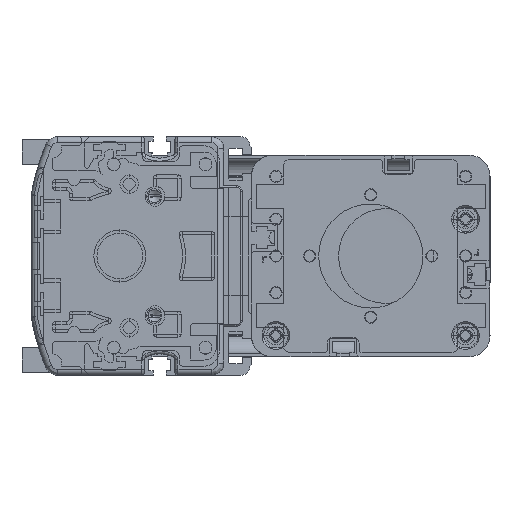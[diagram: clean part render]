
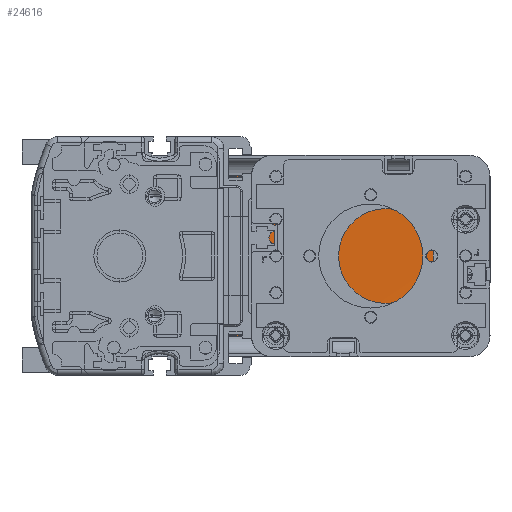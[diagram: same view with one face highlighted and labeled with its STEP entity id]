
A CAD part, left-side view. The second image highlights one B-rep face of the part: STEP entity #24616.
In plain terms, the highlighted spherical face has radius 998.8 mm.
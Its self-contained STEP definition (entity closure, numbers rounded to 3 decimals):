
#6895=CARTESIAN_POINT('',(129.,-67.569,0.));
#6896=DIRECTION('',(0.,1.,0.));
#6897=DIRECTION('',(1.,0.,0.026));
#6898=AXIS2_PLACEMENT_3D('',#6895,#6896,#6897);
#6918=CARTESIAN_POINT('',(129.,-67.569,0.));
#6919=DIRECTION('',(0.,1.,0.));
#6920=DIRECTION('',(1.,0.,-0.007));
#6921=AXIS2_PLACEMENT_3D('',#6918,#6919,#6920);
#6930=CARTESIAN_POINT('',(1125.688,-67.569,
-6.777));
#6931=CARTESIAN_POINT('',(1125.741,-66.776,
-6.493));
#6932=CARTESIAN_POINT('',(1125.841,-65.292,
-5.643));
#6933=CARTESIAN_POINT('',(1125.952,-63.641,
-3.684));
#6934=CARTESIAN_POINT('',(1126.011,-62.764,
-1.279));
#6935=CARTESIAN_POINT('',(1126.011,-62.764,1.28));
#6936=CARTESIAN_POINT('',(1125.952,-63.642,3.684));
#6937=CARTESIAN_POINT('',(1125.841,-65.293,5.644));
#6938=CARTESIAN_POINT('',(1125.741,-66.776,6.493));
#6939=CARTESIAN_POINT('',(1125.688,-67.569,6.777));
#6961=CARTESIAN_POINT('',(1125.688,61.569,6.777));
#6962=CARTESIAN_POINT('',(1125.741,60.779,6.494));
#6963=CARTESIAN_POINT('',(1125.84,59.299,5.648));
#6964=CARTESIAN_POINT('',(1125.952,57.642,3.687));
#6965=CARTESIAN_POINT('',(1126.011,56.764,1.28));
#6966=CARTESIAN_POINT('',(1126.011,56.764,-1.281));
#6967=CARTESIAN_POINT('',(1125.952,57.643,-3.688));
#6968=CARTESIAN_POINT('',(1125.84,59.3,-5.649));
#6969=CARTESIAN_POINT('',(1125.741,60.78,-6.494));
#6970=CARTESIAN_POINT('',(1125.688,61.569,-6.777));
#6972=CARTESIAN_POINT('',(129.,-3.,-26.152));
#6973=DIRECTION('',(0.,0.,1.));
#6974=DIRECTION('',(0.998,-0.065,0.));
#6975=AXIS2_PLACEMENT_3D('',#6972,#6973,#6974);
#7014=CARTESIAN_POINT('',(129.,61.569,0.));
#7015=DIRECTION('',(0.,-1.,0.));
#7016=DIRECTION('',(1.,0.,-0.026));
#7017=AXIS2_PLACEMENT_3D('',#7014,#7015,#7016);
#7028=CARTESIAN_POINT('',(129.,61.569,0.));
#7029=DIRECTION('',(0.,-1.,0.));
#7030=DIRECTION('',(1.,0.,0.007));
#7031=AXIS2_PLACEMENT_3D('',#7028,#7029,#7030);
#7108=CARTESIAN_POINT('',(129.,-3.,26.152));
#7109=DIRECTION('',(0.,0.,-1.));
#7110=DIRECTION('',(0.998,0.065,0.));
#7111=AXIS2_PLACEMENT_3D('',#7108,#7109,#7110);
#13086=VERTEX_POINT('',#6930);
#13087=VERTEX_POINT('',#6939);
#13088=CARTESIAN_POINT('',(1125.368,-67.569,
26.152));
#13089=VERTEX_POINT('',#13088);
#13090=CARTESIAN_POINT('',(1125.368,61.569,26.152));
#13091=VERTEX_POINT('',#13090);
#13092=CARTESIAN_POINT('',(1125.688,61.569,6.777));
#13093=VERTEX_POINT('',#13092);
#13094=VERTEX_POINT('',#6970);
#13095=CARTESIAN_POINT('',(1125.368,61.569,
-26.152));
#13096=VERTEX_POINT('',#13095);
#13097=CARTESIAN_POINT('',(1125.368,-67.569,
-26.152));
#13098=VERTEX_POINT('',#13097);
#24596=CARTESIAN_POINT('',(129.,-3.,0.));
#24597=DIRECTION('',(0.,-1.,0.));
#24598=DIRECTION('',(1.,0.,0.));
#24599=AXIS2_PLACEMENT_3D('',#24596,#24597,#24598);
#24600=SPHERICAL_SURFACE('',#24599,998.8);
#24601=ORIENTED_EDGE('',*,*,#24587,.F.);
#24602=ORIENTED_EDGE('',*,*,#24573,.T.);
#24604=ORIENTED_EDGE('',*,*,#24603,.T.);
#24606=ORIENTED_EDGE('',*,*,#24605,.T.);
#24608=ORIENTED_EDGE('',*,*,#24607,.F.);
#24610=ORIENTED_EDGE('',*,*,#24609,.T.);
#24612=ORIENTED_EDGE('',*,*,#24611,.T.);
#24613=ORIENTED_EDGE('',*,*,#24567,.T.);
#24614=EDGE_LOOP('',(#24601,#24602,#24604,#24606,#24608,#24610,#24612,#24613));
#24615=FACE_OUTER_BOUND('',#24614,.F.);
#24616=ADVANCED_FACE('',(#24615),#24600,.F.);
#6899=CIRCLE('',#6898,996.711);
#6922=CIRCLE('',#6921,996.711);
#6940=B_SPLINE_CURVE_WITH_KNOTS('',3,(#6930,#6931,#6932,#6933,#6934,#6935,#6936,
#6937,#6938,#6939),.UNSPECIFIED.,.F.,.F.,(4,1,1,1,1,1,1,4),(0.,
0.143,0.286,0.429,0.571,
0.714,0.857,1.),.UNSPECIFIED.);
#6971=B_SPLINE_CURVE_WITH_KNOTS('',3,(#6961,#6962,#6963,#6964,#6965,#6966,#6967,
#6968,#6969,#6970),.UNSPECIFIED.,.F.,.F.,(4,1,1,1,1,1,1,4),(0.,
0.143,0.286,0.429,0.571,
0.714,0.857,1.),.UNSPECIFIED.);
#6976=CIRCLE('',#6975,998.458);
#7018=CIRCLE('',#7017,996.711);
#7032=CIRCLE('',#7031,996.711);
#7112=CIRCLE('',#7111,998.458);
#24567=EDGE_CURVE('',#13089,#13087,#6899,.T.);
#24573=EDGE_CURVE('',#13086,#13098,#6922,.T.);
#24587=EDGE_CURVE('',#13086,#13087,#6940,.T.);
#24603=EDGE_CURVE('',#13098,#13096,#6976,.T.);
#24605=EDGE_CURVE('',#13096,#13094,#7018,.T.);
#24607=EDGE_CURVE('',#13093,#13094,#6971,.T.);
#24609=EDGE_CURVE('',#13093,#13091,#7032,.T.);
#24611=EDGE_CURVE('',#13091,#13089,#7112,.T.);
